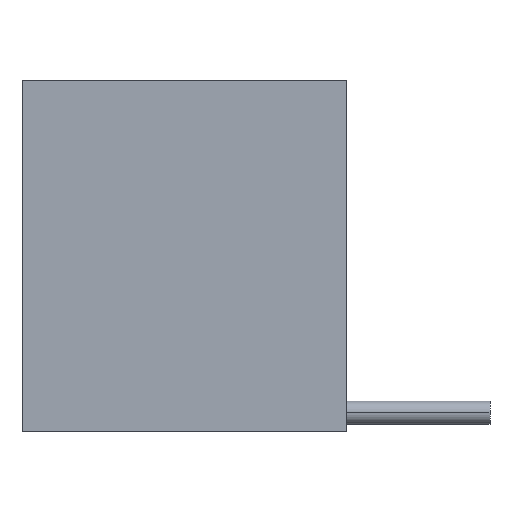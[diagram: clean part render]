
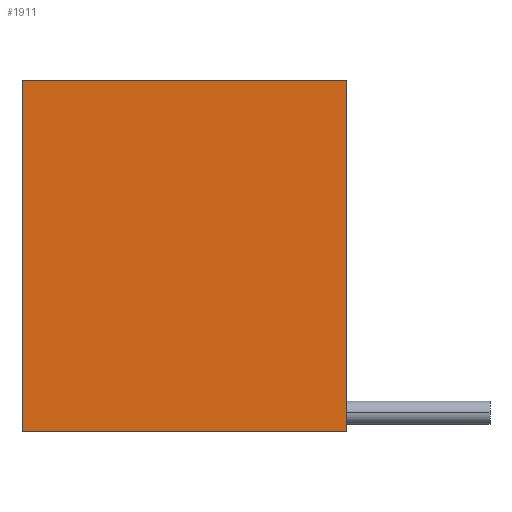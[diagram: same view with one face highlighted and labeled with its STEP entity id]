
A CAD part, top view. The second image highlights one B-rep face of the part: STEP entity #1911.
In plain terms, the highlighted planar face has unit normal (0, 0, 1).
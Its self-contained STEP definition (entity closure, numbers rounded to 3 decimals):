
#34 = CARTESIAN_POINT ( 'NONE',  ( 56., 60.5, 49.3 ) ) ;
#106 = LINE ( 'NONE', #842, #1746 ) ;
#345 = VERTEX_POINT ( 'NONE', #632 ) ;
#363 = DIRECTION ( 'NONE',  ( 1., 0., 0. ) ) ;
#401 = CARTESIAN_POINT ( 'NONE',  ( 56., -60.5, 49.3 ) ) ;
#429 = DIRECTION ( 'NONE',  ( 0., -1., 0. ) ) ;
#432 = EDGE_LOOP ( 'NONE', ( #470, #1802, #1914, #1277 ) ) ;
#461 = VERTEX_POINT ( 'NONE', #34 ) ;
#470 = ORIENTED_EDGE ( 'NONE', *, *, #1071, .T. ) ;
#499 = LINE ( 'NONE', #1494, #1241 ) ;
#550 = CARTESIAN_POINT ( 'NONE',  ( 0., 0., 49.3 ) ) ;
#563 = DIRECTION ( 'NONE',  ( 1., 0., 0. ) ) ;
#630 = LINE ( 'NONE', #1264, #1725 ) ;
#632 = CARTESIAN_POINT ( 'NONE',  ( -56., 60.5, 49.3 ) ) ;
#642 = CARTESIAN_POINT ( 'NONE',  ( -56., -60.5, 49.3 ) ) ;
#674 = VERTEX_POINT ( 'NONE', #642 ) ;
#728 = DIRECTION ( 'NONE',  ( -1., 0., 0. ) ) ;
#842 = CARTESIAN_POINT ( 'NONE',  ( 56., -60.5, 49.3 ) ) ;
#922 = FACE_OUTER_BOUND ( 'NONE', #432, .T. ) ;
#936 = VERTEX_POINT ( 'NONE', #401 ) ;
#1051 = EDGE_CURVE ( 'NONE', #936, #461, #106, .T. ) ;
#1071 = EDGE_CURVE ( 'NONE', #345, #674, #499, .T. ) ;
#1169 = EDGE_CURVE ( 'NONE', #461, #345, #1632, .T. ) ;
#1241 = VECTOR ( 'NONE', #429, 1000. ) ;
#1264 = CARTESIAN_POINT ( 'NONE',  ( 56., -60.5, 49.3 ) ) ;
#1277 = ORIENTED_EDGE ( 'NONE', *, *, #1169, .T. ) ;
#1395 = VECTOR ( 'NONE', #728, 1000. ) ;
#1445 = PLANE ( 'NONE',  #1823 ) ;
#1466 = DIRECTION ( 'NONE',  ( 0., 0., 1. ) ) ;
#1494 = CARTESIAN_POINT ( 'NONE',  ( -56., -60.5, 49.3 ) ) ;
#1573 = EDGE_CURVE ( 'NONE', #674, #936, #630, .T. ) ;
#1632 = LINE ( 'NONE', #1638, #1395 ) ;
#1638 = CARTESIAN_POINT ( 'NONE',  ( 56., 60.5, 49.3 ) ) ;
#1725 = VECTOR ( 'NONE', #363, 1000. ) ;
#1746 = VECTOR ( 'NONE', #1888, 1000. ) ;
#1802 = ORIENTED_EDGE ( 'NONE', *, *, #1573, .T. ) ;
#1823 = AXIS2_PLACEMENT_3D ( 'NONE', #550, #1466, #563 ) ;
#1888 = DIRECTION ( 'NONE',  ( 0., 1., 0. ) ) ;
#1911 = ADVANCED_FACE ( 'NONE', ( #922 ), #1445, .T. ) ;
#1914 = ORIENTED_EDGE ( 'NONE', *, *, #1051, .T. ) ;
